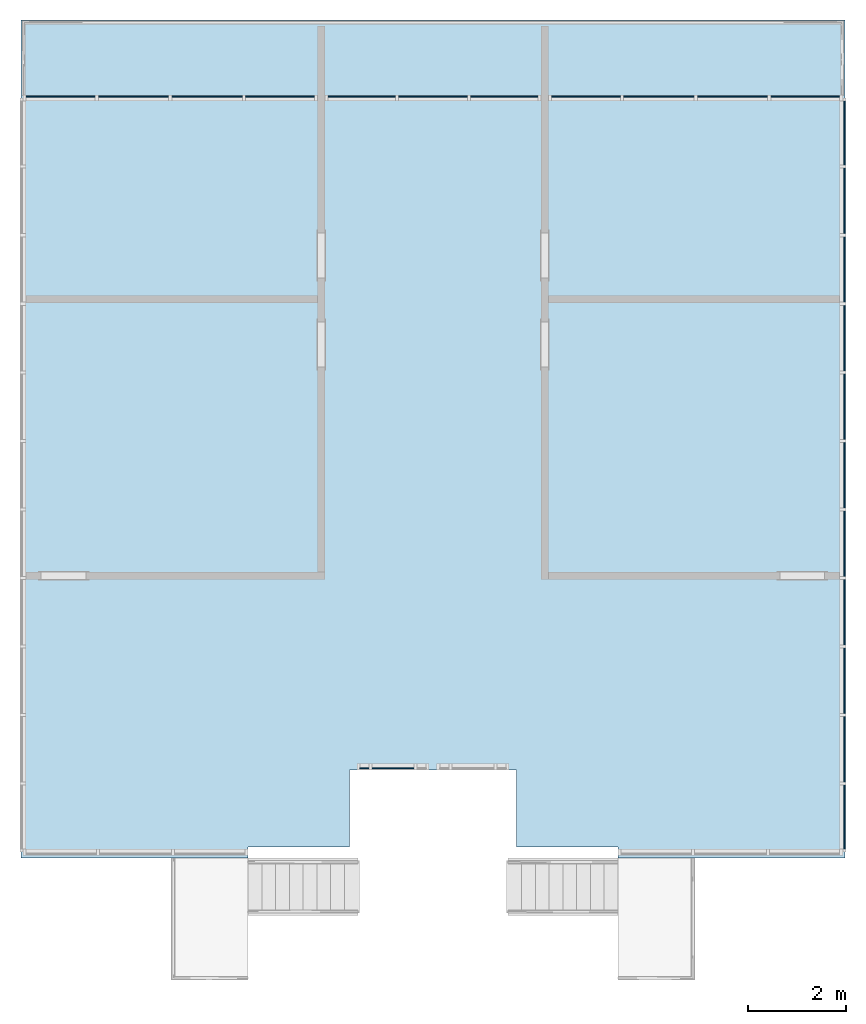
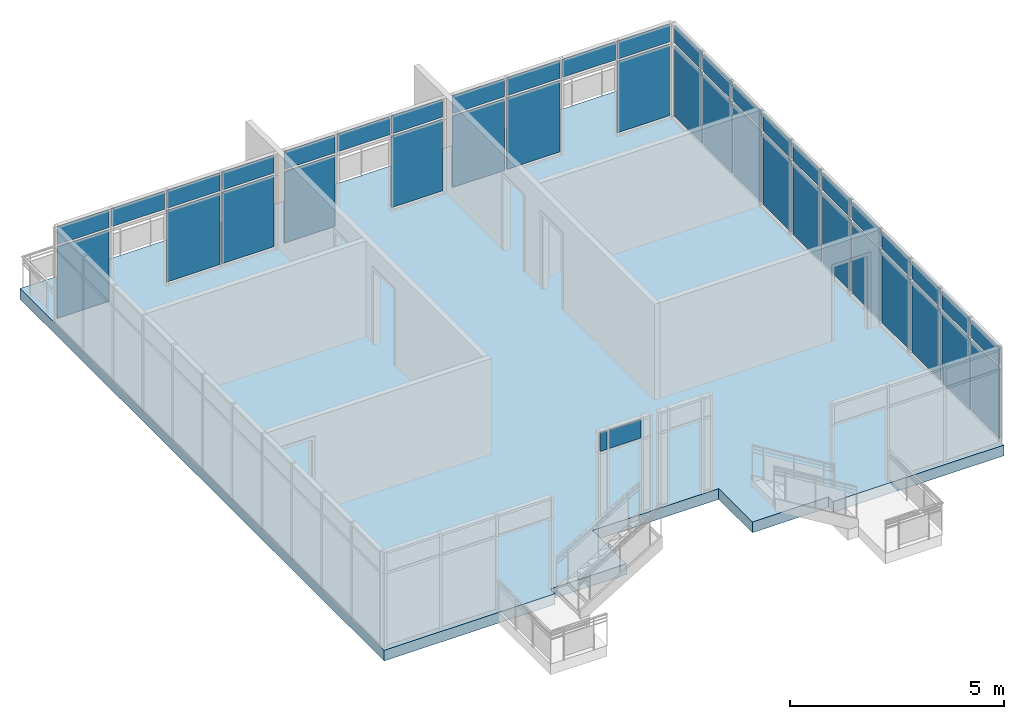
# One storey, part 6 of 11: 43 plates, 1 slab, 5 elements without a shape of their own.
"""IFC2X3 building model written with IfcOpenShell, lengths in feet."""

from ifc_helpers import new_model, entity, si_unit, converted_unit, derived_unit, direction, frame, frame_2d, origin, place, context, subcontext, project, spatial, polyline, rectangle, outline, extrude, source, transform, mapped, material, layer, layer_set, layer_usage, type_object, type_shapes, element, aggregate, save


model = new_model("IFC2X3")

# Units and contexts
model_context = context("Model", 3, precision=0.0001, world=origin(), true_north=direction((6.12303176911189e-17, 1.0)))
body_context = subcontext(model_context, "Body", "Model", "MODEL_VIEW")
ifc_project = project(units=[converted_unit("LENGTHUNIT", "FOOT", entity("IfcRatioMeasure", 0.3048), si_unit("LENGTHUNIT", "METRE"), dimensions=[1, 0, 0, 0, 0, 0, 0]), converted_unit("AREAUNIT", "SQUARE FOOT", entity("IfcRatioMeasure", 0.09290304), si_unit("AREAUNIT", "SQUARE_METRE"), dimensions=[2, 0, 0, 0, 0, 0, 0]), converted_unit("VOLUMEUNIT", "CUBIC FOOT", entity("IfcRatioMeasure", 0.028316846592), si_unit("VOLUMEUNIT", "CUBIC_METRE"), dimensions=[3, 0, 0, 0, 0, 0, 0]), converted_unit("PLANEANGLEUNIT", "DEGREE", entity("IfcRatioMeasure", 0.0174532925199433), si_unit("PLANEANGLEUNIT", "RADIAN"), dimensions=[0, 0, 0, 0, 0, 0, 0]), si_unit("MASSUNIT", "GRAM", prefix="KILO"), derived_unit("MASSDENSITYUNIT", [(si_unit("MASSUNIT", "GRAM", prefix="KILO"), 1), (si_unit("LENGTHUNIT", "METRE"), -3)]), si_unit("TIMEUNIT", "SECOND"), si_unit("FREQUENCYUNIT", "HERTZ"), si_unit("THERMODYNAMICTEMPERATUREUNIT", "DEGREE_CELSIUS"), derived_unit("THERMALTRANSMITTANCEUNIT", [(si_unit("MASSUNIT", "GRAM", prefix="KILO"), 1), (si_unit("THERMODYNAMICTEMPERATUREUNIT", "KELVIN"), -1), (si_unit("TIMEUNIT", "SECOND"), -3)]), derived_unit("VOLUMETRICFLOWRATEUNIT", [(si_unit("LENGTHUNIT", "METRE"), 3), (si_unit("TIMEUNIT", "SECOND"), -1)]), si_unit("ELECTRICCURRENTUNIT", "AMPERE"), si_unit("ELECTRICVOLTAGEUNIT", "VOLT"), si_unit("POWERUNIT", "WATT"), si_unit("FORCEUNIT", "NEWTON"), si_unit("ILLUMINANCEUNIT", "LUX"), si_unit("LUMINOUSFLUXUNIT", "LUMEN"), si_unit("LUMINOUSINTENSITYUNIT", "CANDELA"), derived_unit("USERDEFINED", [(si_unit("MASSUNIT", "GRAM", prefix="KILO"), -1), (si_unit("LENGTHUNIT", "METRE"), -2), (si_unit("TIMEUNIT", "SECOND"), 3), (si_unit("LUMINOUSFLUXUNIT", "LUMEN"), 1)]), derived_unit("LINEARVELOCITYUNIT", [(si_unit("LENGTHUNIT", "METRE"), 1), (si_unit("TIMEUNIT", "SECOND"), -1)]), si_unit("PRESSUREUNIT", "PASCAL"), derived_unit("USERDEFINED", [(si_unit("LENGTHUNIT", "METRE"), -2), (si_unit("MASSUNIT", "GRAM", prefix="KILO"), 1), (si_unit("TIMEUNIT", "SECOND"), -2)])], contexts=[model_context])

# Site, building, storey
site_placement = place(None, origin())
site = spatial("IfcSite", under=ifc_project, at=site_placement, Name="Default", CompositionType="ELEMENT")
building_placement = place(site_placement, origin())
building = spatial("IfcBuilding", under=site, at=building_placement, CompositionType="ELEMENT")
storey_placement = place(building_placement, frame((0.0, 0.0, 10.0)))
storey = spatial("IfcBuildingStorey", under=building, at=storey_placement, Name="Level 2", CompositionType="ELEMENT", Elevation=9.99999999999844)

# Curtain wall, plates
curtain_wall_type = type_object("IfcCurtainWallType", Name="Curtain Wall:Storefront 2", PredefinedType="NOTDEFINED")
curtain_wall_1_placement = place(storey_placement, frame((0.0, 0.0, -10.0)))
curtain_wall_1 = element("IfcCurtainWall", 1, at=curtain_wall_1_placement, inside=storey, type_object=curtain_wall_type, Name="Curtain Wall:Storefront 2", ObjectType="Curtain Wall:Storefront 2")
ifc_material_1 = material(Name="<Unnamed>")
ifc_layer_1 = layer(ifc_material_1, 0.0833333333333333)
ifc_layer_set_1 = layer_set([ifc_layer_1], Name="Curtain Wall:Storefront")
ifc_layer_usage_1 = layer_usage(ifc_layer_set_1, "AXIS3", "POSITIVE", 0.104166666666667)
plate_type_1 = type_object("IfcPlateType", Name="Glazed", PredefinedType="CURTAIN_PANEL", material=ifc_layer_set_1)
shared_shape_1 = source(origin(), body_context, "Body", "SweptSolid", [
    extrude(rectangle(XDim=0.0833333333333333, YDim=0.604166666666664, at=frame_2d((-6.93889390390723e-18, -2.77555756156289e-17), x_axis=(1.0, 0.0))), frame((0.0, 0.104166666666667, 0.0), z_axis=(0.0, 0.0, 1.0), x_axis=(0.0, 1.0, 0.0)), (0.0, 0.0, 1.0), 1.6875),
])
type_shapes(plate_type_1, [shared_shape_1])
plate_1_placement = place(curtain_wall_1_placement, frame((-38.5647461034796, -1.23280792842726, 17.1041666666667), z_axis=(0.0, 0.0, 1.0), x_axis=(-1.0, 0.0, 0.0)))
plate_1 = element("IfcPlate", 2, at=plate_1_placement, type_object=plate_type_1, material=ifc_layer_usage_1, Name="System Panel:Glazed", ObjectType="Glazed", context=body_context, shape_type="MappedRepresentation", body=[
    mapped(shared_shape_1, transform((0.0, 0.0, 0.0), scale=1.0)),
])
ifc_layer_usage_2 = layer_usage(ifc_layer_set_1, "AXIS3", "POSITIVE", 0.104166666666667)
plate_type_2 = type_object("IfcPlateType", Name="Glazed", PredefinedType="CURTAIN_PANEL", material=ifc_layer_set_1)
shared_shape_2 = source(origin(), body_context, "Body", "SweptSolid", [
    extrude(rectangle(XDim=0.0833333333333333, YDim=2.79166666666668, at=frame_2d((-6.93889390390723e-18, 0.0), x_axis=(1.0, 0.0))), frame((0.0, 0.104166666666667, 0.0), z_axis=(0.0, 0.0, 1.0), x_axis=(0.0, 1.0, 0.0)), (0.0, 0.0, 1.0), 1.6875),
])
type_shapes(plate_type_2, [shared_shape_2])
plate_2_placement = place(curtain_wall_1_placement, frame((-36.6584961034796, -1.23280792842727, 17.1041666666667), z_axis=(0.0, 0.0, 1.0), x_axis=(-1.0, 0.0, 0.0)))
plate_2 = element("IfcPlate", 3, at=plate_2_placement, type_object=plate_type_2, material=ifc_layer_usage_2, Name="System Panel:Glazed", ObjectType="Glazed", context=body_context, shape_type="MappedRepresentation", body=[
    mapped(shared_shape_2, transform((0.0, 0.0, 0.0), scale=1.0)),
])
aggregate(curtain_wall_1, [plate_2, plate_1])

curtain_wall_2_placement = place(storey_placement, frame((0.0, 0.0, -10.0)))
curtain_wall_2 = element("IfcCurtainWall", 4, at=curtain_wall_2_placement, inside=storey, type_object=curtain_wall_type, Name="Curtain Wall:Storefront 2", ObjectType="Curtain Wall:Storefront 2")
ifc_layer_usage_3 = layer_usage(ifc_layer_set_1, "AXIS3", "POSITIVE", 0.104166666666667)
plate_type_3 = type_object("IfcPlateType", Name="Glazed", PredefinedType="CURTAIN_PANEL", material=ifc_layer_set_1)
shared_shape_3 = source(origin(), body_context, "Body", "SweptSolid", [
    extrude(rectangle(XDim=0.0833333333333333, YDim=4.49053030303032, at=frame_2d((-6.93889390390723e-18, 0.0), x_axis=(1.0, 0.0))), frame((0.0, 0.104166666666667, 0.0), z_axis=(0.0, 0.0, 1.0), x_axis=(0.0, 1.0, 0.0)), (0.0, 0.0, 1.0), 6.6875),
])
type_shapes(plate_type_3, [shared_shape_3])
plate_3_placement = place(curtain_wall_2_placement, frame((-38.7427764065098, 43.3505254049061, 10.2083333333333)))
plate_3 = element("IfcPlate", 5, at=plate_3_placement, type_object=plate_type_3, material=ifc_layer_usage_3, Name="System Panel:Glazed", ObjectType="Glazed", context=body_context, shape_type="MappedRepresentation", body=[
    mapped(shared_shape_3, transform((0.0, 0.0, 0.0), scale=1.0)),
])
ifc_layer_usage_4 = layer_usage(ifc_layer_set_1, "AXIS3", "POSITIVE", 0.104166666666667)
plate_4_placement = place(curtain_wall_2_placement, frame((-29.2408824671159, 43.350525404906, 10.2083333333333)))
plate_4 = element("IfcPlate", 6, at=plate_4_placement, type_object=plate_type_3, material=ifc_layer_usage_4, Name="System Panel:Glazed", ObjectType="Glazed", context=body_context, shape_type="MappedRepresentation", body=[
    mapped(shared_shape_3, transform((0.0, 0.0, 0.0), scale=1.0)),
])
ifc_layer_usage_5 = layer_usage(ifc_layer_set_1, "AXIS3", "POSITIVE", 0.104166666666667)
plate_type_4 = type_object("IfcPlateType", Name="Glazed", PredefinedType="CURTAIN_PANEL", material=ifc_layer_set_1)
shared_shape_4 = source(origin(), body_context, "Body", "SweptSolid", [
    extrude(rectangle(XDim=0.0833333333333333, YDim=4.49053030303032, at=frame_2d((-6.93889390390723e-18, 0.0), x_axis=(1.0, 0.0))), frame((0.0, 0.104166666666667, 0.0), z_axis=(0.0, 0.0, 1.0), x_axis=(0.0, 1.0, 0.0)), (0.0, 0.0, 1.0), 1.6875),
])
type_shapes(plate_type_4, [shared_shape_4])
plate_5_placement = place(curtain_wall_2_placement, frame((-38.7427764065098, 43.3505254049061, 17.1041666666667)))
plate_5 = element("IfcPlate", 7, at=plate_5_placement, type_object=plate_type_4, material=ifc_layer_usage_5, Name="System Panel:Glazed", ObjectType="Glazed", context=body_context, shape_type="MappedRepresentation", body=[
    mapped(shared_shape_4, transform((0.0, 0.0, 0.0), scale=1.0)),
])
ifc_layer_usage_6 = layer_usage(ifc_layer_set_1, "AXIS3", "POSITIVE", 0.104166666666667)
plate_6_placement = place(curtain_wall_2_placement, frame((-29.2408824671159, 43.350525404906, 17.1041666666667)))
plate_6 = element("IfcPlate", 8, at=plate_6_placement, type_object=plate_type_4, material=ifc_layer_usage_6, Name="System Panel:Glazed", ObjectType="Glazed", context=body_context, shape_type="MappedRepresentation", body=[
    mapped(shared_shape_4, transform((0.0, 0.0, 0.0), scale=1.0)),
])

curtain_wall_3_placement = place(storey_placement, frame((0.0, 0.0, -10.0)))
curtain_wall_3 = element("IfcCurtainWall", 9, at=curtain_wall_3_placement, inside=storey, type_object=curtain_wall_type, Name="Curtain Wall:Storefront 2", ObjectType="Curtain Wall:Storefront 2")
ifc_layer_usage_7 = layer_usage(ifc_layer_set_1, "AXIS3", "POSITIVE", 0.104166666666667)
plate_type_5 = type_object("IfcPlateType", Name="Glazed", PredefinedType="CURTAIN_PANEL", material=ifc_layer_set_1)
shared_shape_5 = source(origin(), body_context, "Body", "SweptSolid", [
    extrude(rectangle(XDim=0.0833333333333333, YDim=4.59469696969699, at=frame_2d((-6.93889390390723e-18, 0.0), x_axis=(1.0, 0.0))), frame((0.0, 0.104166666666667, 0.0), z_axis=(0.0, 0.0, 1.0), x_axis=(0.0, 1.0, 0.0)), (0.0, 0.0, 1.0), 1.6875),
])
type_shapes(plate_type_5, [shared_shape_5])
plate_7_placement = place(curtain_wall_3_placement, frame((-58.8194809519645, 43.3505254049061, 17.1041666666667)))
plate_7 = element("IfcPlate", 10, at=plate_7_placement, type_object=plate_type_5, material=ifc_layer_usage_7, Name="System Panel:Glazed", ObjectType="Glazed", context=body_context, shape_type="MappedRepresentation", body=[
    mapped(shared_shape_5, transform((0.0, 0.0, 0.0), scale=1.0)),
])
ifc_layer_usage_8 = layer_usage(ifc_layer_set_1, "AXIS3", "POSITIVE", 0.104166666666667)
plate_8_placement = place(curtain_wall_3_placement, frame((-44.2020567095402, 43.3505254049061, 17.1041666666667)))
plate_8 = element("IfcPlate", 11, at=plate_8_placement, type_object=plate_type_5, material=ifc_layer_usage_8, Name="System Panel:Glazed", ObjectType="Glazed", context=body_context, shape_type="MappedRepresentation", body=[
    mapped(shared_shape_5, transform((0.0, 0.0, 0.0), scale=1.0)),
])

curtain_wall_4_placement = place(storey_placement, frame((0.0, 0.0, -10.0)))
curtain_wall_4 = element("IfcCurtainWall", 12, at=curtain_wall_4_placement, inside=storey, type_object=curtain_wall_type, Name="Curtain Wall:Storefront 2", ObjectType="Curtain Wall:Storefront 2")
ifc_layer_usage_9 = layer_usage(ifc_layer_set_1, "AXIS3", "POSITIVE", 0.104166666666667)
plate_9_placement = place(curtain_wall_4_placement, frame((-23.7816021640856, 43.350525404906, 17.1041666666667)))
plate_9 = element("IfcPlate", 13, at=plate_9_placement, type_object=plate_type_5, material=ifc_layer_usage_9, Name="System Panel:Glazed", ObjectType="Glazed", context=body_context, shape_type="MappedRepresentation", body=[
    mapped(shared_shape_5, transform((0.0, 0.0, 0.0), scale=1.0)),
])
ifc_layer_usage_10 = layer_usage(ifc_layer_set_1, "AXIS3", "POSITIVE", 0.104166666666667)
plate_10_placement = place(curtain_wall_4_placement, frame((-9.16417792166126, 43.350525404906, 17.1041666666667)))
plate_10 = element("IfcPlate", 14, at=plate_10_placement, type_object=plate_type_5, material=ifc_layer_usage_10, Name="System Panel:Glazed", ObjectType="Glazed", context=body_context, shape_type="MappedRepresentation", body=[
    mapped(shared_shape_5, transform((0.0, 0.0, 0.0), scale=1.0)),
])

# Plate
ifc_layer_usage_11 = layer_usage(ifc_layer_set_1, "AXIS3", "POSITIVE", 0.104166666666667)
plate_11_placement = place(curtain_wall_2_placement, frame((-33.9918294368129, 43.350525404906, 17.1041666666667)))
plate_11 = element("IfcPlate", 15, at=plate_11_placement, type_object=plate_type_5, material=ifc_layer_usage_11, Name="System Panel:Glazed", ObjectType="Glazed", context=body_context, shape_type="MappedRepresentation", body=[
    mapped(shared_shape_5, transform((0.0, 0.0, 0.0), scale=1.0)),
])

aggregate(curtain_wall_2, [plate_3, plate_4, plate_5, plate_11, plate_6])

# Curtain wall, plates
curtain_wall_5_placement = place(storey_placement, frame((0.0, 0.0, -10.0)))
curtain_wall_5 = element("IfcCurtainWall", 16, at=curtain_wall_5_placement, inside=storey, type_object=curtain_wall_type, Name="Curtain Wall:Storefront 2", ObjectType="Curtain Wall:Storefront 2")
ifc_layer_usage_12 = layer_usage(ifc_layer_set_1, "AXIS3", "POSITIVE", 0.104166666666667)
plate_type_6 = type_object("IfcPlateType", Name="Glazed", PredefinedType="CURTAIN_PANEL", material=ifc_layer_set_1)
shared_shape_6 = source(origin(), body_context, "Body", "SweptSolid", [
    extrude(rectangle(XDim=0.0833333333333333, YDim=4.25946969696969, at=frame_2d((-6.93889390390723e-18, 0.0), x_axis=(1.0, 0.0))), frame((0.0, 0.104166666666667, 0.0), z_axis=(0.0, 0.0, 1.0), x_axis=(0.0, 1.0, 0.0)), (0.0, 0.0, 1.0), 6.6875),
])
type_shapes(plate_type_6, [shared_shape_6])
plate_12_placement = place(curtain_wall_5_placement, frame((-6.65849610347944, 41.0124572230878, 10.2083333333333), z_axis=(0.0, 0.0, 1.0), x_axis=(0.0, -1.0, 0.0)))
plate_12 = element("IfcPlate", 17, at=plate_12_placement, type_object=plate_type_6, material=ifc_layer_usage_12, Name="System Panel:Glazed", ObjectType="Glazed", context=body_context, shape_type="MappedRepresentation", body=[
    mapped(shared_shape_6, transform((0.0, 0.0, 0.0), scale=1.0)),
])
ifc_layer_usage_13 = layer_usage(ifc_layer_set_1, "AXIS3", "POSITIVE", 0.104166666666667)
plate_13_placement = place(curtain_wall_5_placement, frame((-6.65849610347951, -4.60307307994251, 10.2083333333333), z_axis=(0.0, 0.0, 1.0), x_axis=(0.0, -1.0, 0.0)))
plate_13 = element("IfcPlate", 18, at=plate_13_placement, type_object=plate_type_6, material=ifc_layer_usage_13, Name="System Panel:Glazed", ObjectType="Glazed", context=body_context, shape_type="MappedRepresentation", body=[
    mapped(shared_shape_6, transform((0.0, 0.0, 0.0), scale=1.0)),
])
ifc_layer_usage_14 = layer_usage(ifc_layer_set_1, "AXIS3", "POSITIVE", 0.104166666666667)
plate_type_7 = type_object("IfcPlateType", Name="Glazed", PredefinedType="CURTAIN_PANEL", material=ifc_layer_set_1)
shared_shape_7 = source(origin(), body_context, "Body", "SweptSolid", [
    extrude(rectangle(XDim=0.0833333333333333, YDim=4.36363636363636, at=frame_2d((-6.93889390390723e-18, 0.0), x_axis=(1.0, 0.0))), frame((0.0, 0.104166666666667, 0.0), z_axis=(0.0, 0.0, 1.0), x_axis=(0.0, 1.0, 0.0)), (0.0, 0.0, 1.0), 6.6875),
])
type_shapes(plate_type_7, [shared_shape_7])
plate_14_placement = place(curtain_wall_5_placement, frame((-6.65849610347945, 36.4925708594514, 10.2083333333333), z_axis=(0.0, 0.0, 1.0), x_axis=(0.0, -1.0, 0.0)))
plate_14 = element("IfcPlate", 19, at=plate_14_placement, type_object=plate_type_7, material=ifc_layer_usage_14, Name="System Panel:Glazed", ObjectType="Glazed", context=body_context, shape_type="MappedRepresentation", body=[
    mapped(shared_shape_7, transform((0.0, 0.0, 0.0), scale=1.0)),
])
ifc_layer_usage_15 = layer_usage(ifc_layer_set_1, "AXIS3", "POSITIVE", 0.104166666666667)
plate_15_placement = place(curtain_wall_5_placement, frame((-6.65849610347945, 31.9206011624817, 10.2083333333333), z_axis=(0.0, 0.0, 1.0), x_axis=(0.0, -1.0, 0.0)))
plate_15 = element("IfcPlate", 20, at=plate_15_placement, type_object=plate_type_7, material=ifc_layer_usage_15, Name="System Panel:Glazed", ObjectType="Glazed", context=body_context, shape_type="MappedRepresentation", body=[
    mapped(shared_shape_7, transform((0.0, 0.0, 0.0), scale=1.0)),
])
ifc_layer_usage_16 = layer_usage(ifc_layer_set_1, "AXIS3", "POSITIVE", 0.104166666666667)
plate_16_placement = place(curtain_wall_5_placement, frame((-6.65849610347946, 27.348631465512, 10.2083333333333), z_axis=(0.0, 0.0, 1.0), x_axis=(0.0, -1.0, 0.0)))
plate_16 = element("IfcPlate", 21, at=plate_16_placement, type_object=plate_type_7, material=ifc_layer_usage_16, Name="System Panel:Glazed", ObjectType="Glazed", context=body_context, shape_type="MappedRepresentation", body=[
    mapped(shared_shape_7, transform((0.0, 0.0, 0.0), scale=1.0)),
])
ifc_layer_usage_17 = layer_usage(ifc_layer_set_1, "AXIS3", "POSITIVE", 0.104166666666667)
plate_17_placement = place(curtain_wall_5_placement, frame((-6.65849610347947, 22.7766617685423, 10.2083333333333), z_axis=(0.0, 0.0, 1.0), x_axis=(0.0, -1.0, 0.0)))
plate_17 = element("IfcPlate", 22, at=plate_17_placement, type_object=plate_type_7, material=ifc_layer_usage_17, Name="System Panel:Glazed", ObjectType="Glazed", context=body_context, shape_type="MappedRepresentation", body=[
    mapped(shared_shape_7, transform((0.0, 0.0, 0.0), scale=1.0)),
])
ifc_layer_usage_18 = layer_usage(ifc_layer_set_1, "AXIS3", "POSITIVE", 0.104166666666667)
plate_18_placement = place(curtain_wall_5_placement, frame((-6.65849610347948, 18.2046920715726, 10.2083333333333), z_axis=(0.0, 0.0, 1.0), x_axis=(0.0, -1.0, 0.0)))
plate_18 = element("IfcPlate", 23, at=plate_18_placement, type_object=plate_type_7, material=ifc_layer_usage_18, Name="System Panel:Glazed", ObjectType="Glazed", context=body_context, shape_type="MappedRepresentation", body=[
    mapped(shared_shape_7, transform((0.0, 0.0, 0.0), scale=1.0)),
])
ifc_layer_usage_19 = layer_usage(ifc_layer_set_1, "AXIS3", "POSITIVE", 0.104166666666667)
plate_19_placement = place(curtain_wall_5_placement, frame((-6.65849610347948, 13.6327223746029, 10.2083333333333), z_axis=(0.0, 0.0, 1.0), x_axis=(0.0, -1.0, 0.0)))
plate_19 = element("IfcPlate", 24, at=plate_19_placement, type_object=plate_type_7, material=ifc_layer_usage_19, Name="System Panel:Glazed", ObjectType="Glazed", context=body_context, shape_type="MappedRepresentation", body=[
    mapped(shared_shape_7, transform((0.0, 0.0, 0.0), scale=1.0)),
])
ifc_layer_usage_20 = layer_usage(ifc_layer_set_1, "AXIS3", "POSITIVE", 0.104166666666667)
plate_20_placement = place(curtain_wall_5_placement, frame((-6.65849610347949, 9.06075267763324, 10.2083333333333), z_axis=(0.0, 0.0, 1.0), x_axis=(0.0, -1.0, 0.0)))
plate_20 = element("IfcPlate", 25, at=plate_20_placement, type_object=plate_type_7, material=ifc_layer_usage_20, Name="System Panel:Glazed", ObjectType="Glazed", context=body_context, shape_type="MappedRepresentation", body=[
    mapped(shared_shape_7, transform((0.0, 0.0, 0.0), scale=1.0)),
])
ifc_layer_usage_21 = layer_usage(ifc_layer_set_1, "AXIS3", "POSITIVE", 0.104166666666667)
plate_21_placement = place(curtain_wall_5_placement, frame((-6.6584961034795, 4.48878298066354, 10.2083333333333), z_axis=(0.0, 0.0, 1.0), x_axis=(0.0, -1.0, 0.0)))
plate_21 = element("IfcPlate", 26, at=plate_21_placement, type_object=plate_type_7, material=ifc_layer_usage_21, Name="System Panel:Glazed", ObjectType="Glazed", context=body_context, shape_type="MappedRepresentation", body=[
    mapped(shared_shape_7, transform((0.0, 0.0, 0.0), scale=1.0)),
])
ifc_layer_usage_22 = layer_usage(ifc_layer_set_1, "AXIS3", "POSITIVE", 0.104166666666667)
plate_22_placement = place(curtain_wall_5_placement, frame((-6.65849610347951, -0.0831867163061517, 10.2083333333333), z_axis=(0.0, 0.0, 1.0), x_axis=(0.0, -1.0, 0.0)))
plate_22 = element("IfcPlate", 27, at=plate_22_placement, type_object=plate_type_7, material=ifc_layer_usage_22, Name="System Panel:Glazed", ObjectType="Glazed", context=body_context, shape_type="MappedRepresentation", body=[
    mapped(shared_shape_7, transform((0.0, 0.0, 0.0), scale=1.0)),
])
ifc_layer_usage_23 = layer_usage(ifc_layer_set_1, "AXIS3", "POSITIVE", 0.104166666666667)
plate_type_8 = type_object("IfcPlateType", Name="Glazed", PredefinedType="CURTAIN_PANEL", material=ifc_layer_set_1)
shared_shape_8 = source(origin(), body_context, "Body", "SweptSolid", [
    extrude(rectangle(XDim=0.0833333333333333, YDim=4.2594696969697, at=frame_2d((-6.93889390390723e-18, 0.0), x_axis=(1.0, 0.0))), frame((0.0, 0.104166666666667, 0.0), z_axis=(0.0, 0.0, 1.0), x_axis=(0.0, 1.0, 0.0)), (0.0, 0.0, 1.0), 1.6875),
])
type_shapes(plate_type_8, [shared_shape_8])
plate_23_placement = place(curtain_wall_5_placement, frame((-6.65849610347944, 41.0124572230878, 17.1041666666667), z_axis=(0.0, 0.0, 1.0), x_axis=(0.0, -1.0, 0.0)))
plate_23 = element("IfcPlate", 28, at=plate_23_placement, type_object=plate_type_8, material=ifc_layer_usage_23, Name="System Panel:Glazed", ObjectType="Glazed", context=body_context, shape_type="MappedRepresentation", body=[
    mapped(shared_shape_8, transform((0.0, 0.0, 0.0), scale=1.0)),
])
ifc_layer_usage_24 = layer_usage(ifc_layer_set_1, "AXIS3", "POSITIVE", 0.104166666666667)
plate_24_placement = place(curtain_wall_5_placement, frame((-6.65849610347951, -4.60307307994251, 17.1041666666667), z_axis=(0.0, 0.0, 1.0), x_axis=(0.0, -1.0, 0.0)))
plate_24 = element("IfcPlate", 29, at=plate_24_placement, type_object=plate_type_8, material=ifc_layer_usage_24, Name="System Panel:Glazed", ObjectType="Glazed", context=body_context, shape_type="MappedRepresentation", body=[
    mapped(shared_shape_8, transform((0.0, 0.0, 0.0), scale=1.0)),
])
ifc_layer_usage_25 = layer_usage(ifc_layer_set_1, "AXIS3", "POSITIVE", 0.104166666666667)
plate_type_9 = type_object("IfcPlateType", Name="Glazed", PredefinedType="CURTAIN_PANEL", material=ifc_layer_set_1)
shared_shape_9 = source(origin(), body_context, "Body", "SweptSolid", [
    extrude(rectangle(XDim=0.0833333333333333, YDim=4.36363636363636, at=frame_2d((-6.93889390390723e-18, 0.0), x_axis=(1.0, 0.0))), frame((0.0, 0.104166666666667, 0.0), z_axis=(0.0, 0.0, 1.0), x_axis=(0.0, 1.0, 0.0)), (0.0, 0.0, 1.0), 1.6875),
])
type_shapes(plate_type_9, [shared_shape_9])
plate_25_placement = place(curtain_wall_5_placement, frame((-6.65849610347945, 36.4925708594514, 17.1041666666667), z_axis=(0.0, 0.0, 1.0), x_axis=(0.0, -1.0, 0.0)))
plate_25 = element("IfcPlate", 30, at=plate_25_placement, type_object=plate_type_9, material=ifc_layer_usage_25, Name="System Panel:Glazed", ObjectType="Glazed", context=body_context, shape_type="MappedRepresentation", body=[
    mapped(shared_shape_9, transform((0.0, 0.0, 0.0), scale=1.0)),
])
ifc_layer_usage_26 = layer_usage(ifc_layer_set_1, "AXIS3", "POSITIVE", 0.104166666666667)
plate_26_placement = place(curtain_wall_5_placement, frame((-6.65849610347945, 31.9206011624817, 17.1041666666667), z_axis=(0.0, 0.0, 1.0), x_axis=(0.0, -1.0, 0.0)))
plate_26 = element("IfcPlate", 31, at=plate_26_placement, type_object=plate_type_9, material=ifc_layer_usage_26, Name="System Panel:Glazed", ObjectType="Glazed", context=body_context, shape_type="MappedRepresentation", body=[
    mapped(shared_shape_9, transform((0.0, 0.0, 0.0), scale=1.0)),
])
ifc_layer_usage_27 = layer_usage(ifc_layer_set_1, "AXIS3", "POSITIVE", 0.104166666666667)
plate_27_placement = place(curtain_wall_5_placement, frame((-6.65849610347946, 27.348631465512, 17.1041666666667), z_axis=(0.0, 0.0, 1.0), x_axis=(0.0, -1.0, 0.0)))
plate_27 = element("IfcPlate", 32, at=plate_27_placement, type_object=plate_type_9, material=ifc_layer_usage_27, Name="System Panel:Glazed", ObjectType="Glazed", context=body_context, shape_type="MappedRepresentation", body=[
    mapped(shared_shape_9, transform((0.0, 0.0, 0.0), scale=1.0)),
])
ifc_layer_usage_28 = layer_usage(ifc_layer_set_1, "AXIS3", "POSITIVE", 0.104166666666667)
plate_28_placement = place(curtain_wall_5_placement, frame((-6.65849610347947, 22.7766617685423, 17.1041666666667), z_axis=(0.0, 0.0, 1.0), x_axis=(0.0, -1.0, 0.0)))
plate_28 = element("IfcPlate", 33, at=plate_28_placement, type_object=plate_type_9, material=ifc_layer_usage_28, Name="System Panel:Glazed", ObjectType="Glazed", context=body_context, shape_type="MappedRepresentation", body=[
    mapped(shared_shape_9, transform((0.0, 0.0, 0.0), scale=1.0)),
])
ifc_layer_usage_29 = layer_usage(ifc_layer_set_1, "AXIS3", "POSITIVE", 0.104166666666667)
plate_29_placement = place(curtain_wall_5_placement, frame((-6.65849610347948, 18.2046920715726, 17.1041666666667), z_axis=(0.0, 0.0, 1.0), x_axis=(0.0, -1.0, 0.0)))
plate_29 = element("IfcPlate", 34, at=plate_29_placement, type_object=plate_type_9, material=ifc_layer_usage_29, Name="System Panel:Glazed", ObjectType="Glazed", context=body_context, shape_type="MappedRepresentation", body=[
    mapped(shared_shape_9, transform((0.0, 0.0, 0.0), scale=1.0)),
])
ifc_layer_usage_30 = layer_usage(ifc_layer_set_1, "AXIS3", "POSITIVE", 0.104166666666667)
plate_30_placement = place(curtain_wall_5_placement, frame((-6.65849610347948, 13.6327223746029, 17.1041666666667), z_axis=(0.0, 0.0, 1.0), x_axis=(0.0, -1.0, 0.0)))
plate_30 = element("IfcPlate", 35, at=plate_30_placement, type_object=plate_type_9, material=ifc_layer_usage_30, Name="System Panel:Glazed", ObjectType="Glazed", context=body_context, shape_type="MappedRepresentation", body=[
    mapped(shared_shape_9, transform((0.0, 0.0, 0.0), scale=1.0)),
])
ifc_layer_usage_31 = layer_usage(ifc_layer_set_1, "AXIS3", "POSITIVE", 0.104166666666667)
plate_31_placement = place(curtain_wall_5_placement, frame((-6.65849610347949, 9.06075267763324, 17.1041666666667), z_axis=(0.0, 0.0, 1.0), x_axis=(0.0, -1.0, 0.0)))
plate_31 = element("IfcPlate", 36, at=plate_31_placement, type_object=plate_type_9, material=ifc_layer_usage_31, Name="System Panel:Glazed", ObjectType="Glazed", context=body_context, shape_type="MappedRepresentation", body=[
    mapped(shared_shape_9, transform((0.0, 0.0, 0.0), scale=1.0)),
])
ifc_layer_usage_32 = layer_usage(ifc_layer_set_1, "AXIS3", "POSITIVE", 0.104166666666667)
plate_32_placement = place(curtain_wall_5_placement, frame((-6.6584961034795, 4.48878298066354, 17.1041666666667), z_axis=(0.0, 0.0, 1.0), x_axis=(0.0, -1.0, 0.0)))
plate_32 = element("IfcPlate", 37, at=plate_32_placement, type_object=plate_type_9, material=ifc_layer_usage_32, Name="System Panel:Glazed", ObjectType="Glazed", context=body_context, shape_type="MappedRepresentation", body=[
    mapped(shared_shape_9, transform((0.0, 0.0, 0.0), scale=1.0)),
])
ifc_layer_usage_33 = layer_usage(ifc_layer_set_1, "AXIS3", "POSITIVE", 0.104166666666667)
plate_33_placement = place(curtain_wall_5_placement, frame((-6.65849610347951, -0.0831867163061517, 17.1041666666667), z_axis=(0.0, 0.0, 1.0), x_axis=(0.0, -1.0, 0.0)))
plate_33 = element("IfcPlate", 38, at=plate_33_placement, type_object=plate_type_9, material=ifc_layer_usage_33, Name="System Panel:Glazed", ObjectType="Glazed", context=body_context, shape_type="MappedRepresentation", body=[
    mapped(shared_shape_9, transform((0.0, 0.0, 0.0), scale=1.0)),
])
aggregate(curtain_wall_5, [plate_12, plate_14, plate_15, plate_16, plate_17, plate_18, plate_19, plate_20, plate_21, plate_22, plate_13, plate_23, plate_25, plate_26, plate_27, plate_28, plate_29, plate_30, plate_31, plate_32, plate_33, plate_24])

# Plate
ifc_layer_usage_34 = layer_usage(ifc_layer_set_1, "AXIS3", "POSITIVE", 0.104166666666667)
plate_type_10 = type_object("IfcPlateType", Name="Glazed", PredefinedType="CURTAIN_PANEL", material=ifc_layer_set_1)
shared_shape_10 = source(origin(), body_context, "Body", "SweptSolid", [
    extrude(rectangle(XDim=0.0833333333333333, YDim=4.59469696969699, at=frame_2d((-6.93889390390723e-18, 0.0), x_axis=(1.0, 0.0))), frame((0.0, 0.104166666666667, 0.0), z_axis=(0.0, 0.0, 1.0), x_axis=(0.0, 1.0, 0.0)), (0.0, 0.0, 1.0), 6.6875),
])
type_shapes(plate_type_10, [shared_shape_10])
plate_34_placement = place(curtain_wall_3_placement, frame((-58.8194809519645, 43.3505254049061, 10.2083333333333)))
plate_34 = element("IfcPlate", 39, at=plate_34_placement, type_object=plate_type_10, material=ifc_layer_usage_34, Name="System Panel:Glazed", ObjectType="Glazed", context=body_context, shape_type="MappedRepresentation", body=[
    mapped(shared_shape_10, transform((0.0, 0.0, 0.0), scale=1.0)),
])

ifc_layer_usage_35 = layer_usage(ifc_layer_set_1, "AXIS3", "POSITIVE", 0.104166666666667)
plate_35_placement = place(curtain_wall_3_placement, frame((-44.2020567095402, 43.3505254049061, 10.2083333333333)))
plate_35 = element("IfcPlate", 40, at=plate_35_placement, type_object=plate_type_10, material=ifc_layer_usage_35, Name="System Panel:Glazed", ObjectType="Glazed", context=body_context, shape_type="MappedRepresentation", body=[
    mapped(shared_shape_10, transform((0.0, 0.0, 0.0), scale=1.0)),
])

ifc_layer_usage_36 = layer_usage(ifc_layer_set_1, "AXIS3", "POSITIVE", 0.104166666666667)
plate_36_placement = place(curtain_wall_4_placement, frame((-23.7816021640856, 43.350525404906, 10.2083333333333)))
plate_36 = element("IfcPlate", 41, at=plate_36_placement, type_object=plate_type_10, material=ifc_layer_usage_36, Name="System Panel:Glazed", ObjectType="Glazed", context=body_context, shape_type="MappedRepresentation", body=[
    mapped(shared_shape_10, transform((0.0, 0.0, 0.0), scale=1.0)),
])

ifc_layer_usage_37 = layer_usage(ifc_layer_set_1, "AXIS3", "POSITIVE", 0.104166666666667)
plate_37_placement = place(curtain_wall_4_placement, frame((-9.16417792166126, 43.350525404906, 10.2083333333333)))
plate_37 = element("IfcPlate", 42, at=plate_37_placement, type_object=plate_type_10, material=ifc_layer_usage_37, Name="System Panel:Glazed", ObjectType="Glazed", context=body_context, shape_type="MappedRepresentation", body=[
    mapped(shared_shape_10, transform((0.0, 0.0, 0.0), scale=1.0)),
])

ifc_layer_usage_38 = layer_usage(ifc_layer_set_1, "AXIS3", "POSITIVE", 0.104166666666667)
plate_type_11 = type_object("IfcPlateType", Name="Glazed", PredefinedType="CURTAIN_PANEL", material=ifc_layer_set_1)
shared_shape_11 = source(origin(), body_context, "Body", "SweptSolid", [
    extrude(rectangle(XDim=0.0833333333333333, YDim=4.69886363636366, at=frame_2d((-6.93889390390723e-18, 0.0), x_axis=(1.0, 0.0))), frame((0.0, 0.104166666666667, 0.0), z_axis=(0.0, 0.0, 1.0), x_axis=(0.0, 1.0, 0.0)), (0.0, 0.0, 1.0), 6.6875),
])
type_shapes(plate_type_11, [shared_shape_11])
plate_38_placement = place(curtain_wall_3_placement, frame((-49.0571703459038, 43.3505254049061, 10.2083333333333)))
plate_38 = element("IfcPlate", 43, at=plate_38_placement, type_object=plate_type_11, material=ifc_layer_usage_38, Name="System Panel:Glazed", ObjectType="Glazed", context=body_context, shape_type="MappedRepresentation", body=[
    mapped(shared_shape_11, transform((0.0, 0.0, 0.0), scale=1.0)),
])

ifc_layer_usage_39 = layer_usage(ifc_layer_set_1, "AXIS3", "POSITIVE", 0.104166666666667)
plate_39_placement = place(curtain_wall_4_placement, frame((-18.9264885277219, 43.350525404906, 10.2083333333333)))
plate_39 = element("IfcPlate", 44, at=plate_39_placement, type_object=plate_type_11, material=ifc_layer_usage_39, Name="System Panel:Glazed", ObjectType="Glazed", context=body_context, shape_type="MappedRepresentation", body=[
    mapped(shared_shape_11, transform((0.0, 0.0, 0.0), scale=1.0)),
])

ifc_layer_usage_40 = layer_usage(ifc_layer_set_1, "AXIS3", "POSITIVE", 0.104166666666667)
plate_type_12 = type_object("IfcPlateType", Name="Glazed", PredefinedType="CURTAIN_PANEL", material=ifc_layer_set_1)
shared_shape_12 = source(origin(), body_context, "Body", "SweptSolid", [
    extrude(rectangle(XDim=0.0833333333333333, YDim=4.69886363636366, at=frame_2d((-6.93889390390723e-18, 0.0), x_axis=(1.0, 0.0))), frame((0.0, 0.104166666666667, 0.0), z_axis=(0.0, 0.0, 1.0), x_axis=(0.0, 1.0, 0.0)), (0.0, 0.0, 1.0), 1.6875),
])
type_shapes(plate_type_12, [shared_shape_12])
plate_40_placement = place(curtain_wall_3_placement, frame((-53.9643673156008, 43.3505254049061, 17.1041666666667)))
plate_40 = element("IfcPlate", 45, at=plate_40_placement, type_object=plate_type_12, material=ifc_layer_usage_40, Name="System Panel:Glazed", ObjectType="Glazed", context=body_context, shape_type="MappedRepresentation", body=[
    mapped(shared_shape_12, transform((0.0, 0.0, 0.0), scale=1.0)),
])

ifc_layer_usage_41 = layer_usage(ifc_layer_set_1, "AXIS3", "POSITIVE", 0.104166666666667)
plate_41_placement = place(curtain_wall_3_placement, frame((-49.0571703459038, 43.3505254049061, 17.1041666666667)))
plate_41 = element("IfcPlate", 46, at=plate_41_placement, type_object=plate_type_12, material=ifc_layer_usage_41, Name="System Panel:Glazed", ObjectType="Glazed", context=body_context, shape_type="MappedRepresentation", body=[
    mapped(shared_shape_12, transform((0.0, 0.0, 0.0), scale=1.0)),
])

aggregate(curtain_wall_3, [plate_34, plate_38, plate_35, plate_7, plate_40, plate_41, plate_8])

ifc_layer_usage_42 = layer_usage(ifc_layer_set_1, "AXIS3", "POSITIVE", 0.104166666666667)
plate_42_placement = place(curtain_wall_4_placement, frame((-18.9264885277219, 43.350525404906, 17.1041666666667)))
plate_42 = element("IfcPlate", 47, at=plate_42_placement, type_object=plate_type_12, material=ifc_layer_usage_42, Name="System Panel:Glazed", ObjectType="Glazed", context=body_context, shape_type="MappedRepresentation", body=[
    mapped(shared_shape_12, transform((0.0, 0.0, 0.0), scale=1.0)),
])

ifc_layer_usage_43 = layer_usage(ifc_layer_set_1, "AXIS3", "POSITIVE", 0.104166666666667)
plate_43_placement = place(curtain_wall_4_placement, frame((-14.0192915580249, 43.350525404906, 17.1041666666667)))
plate_43 = element("IfcPlate", 48, at=plate_43_placement, type_object=plate_type_12, material=ifc_layer_usage_43, Name="System Panel:Glazed", ObjectType="Glazed", context=body_context, shape_type="MappedRepresentation", body=[
    mapped(shared_shape_12, transform((0.0, 0.0, 0.0), scale=1.0)),
])

aggregate(curtain_wall_4, [plate_36, plate_39, plate_37, plate_9, plate_42, plate_43, plate_10])

# Slab
ifc_material_2 = material(Name="Concrete, Cast-in-Place gray")
ifc_layer_2 = layer(ifc_material_2, 1.0)
ifc_layer_set_2 = layer_set([ifc_layer_2], Name="Floor:Generic - 12\"")
ifc_layer_usage_44 = layer_usage(ifc_layer_set_2, "AXIS3", "POSITIVE", 0.0)
slab_placement = place(storey_placement, origin())
element("IfcSlab", 49, at=slab_placement, inside=storey, material=ifc_layer_usage_44, Name="Floor:Generic - 12\"", ObjectType="Floor:Generic - 12\"", PredefinedType="FLOOR", context=body_context, shape_type="SweptSolid", body=[
    extrude(outline(polyline([(-10.5416666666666, -27.460237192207), (45.3541666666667, -27.460237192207), (45.3541666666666, 27.4602371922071), (-10.5416666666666, 27.460237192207), (-10.5416666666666, 12.3333333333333), (-9.81250000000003, 12.3333333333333), (-9.81250000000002, 5.58333333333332), (-4.64583333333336, 5.58333333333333), (-4.64583333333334, -5.58333333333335), (-9.81250000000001, -5.58333333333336), (-9.81249999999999, -12.3333333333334), (-10.5416666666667, -12.3333333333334), (-10.5416666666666, -27.460237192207)])), frame((-33.9918294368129, 3.20469207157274, 0.0), z_axis=(0.0, 0.0, -1.0), x_axis=(0.0, 1.0, 0.0)), (0.0, 0.0, 1.0), 1.0),
])

save(model, "model.ifc")
